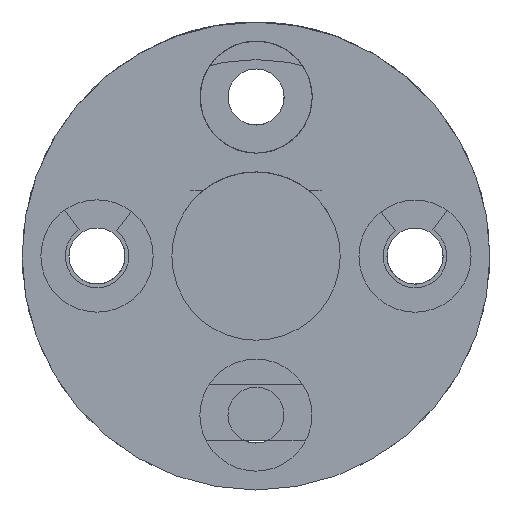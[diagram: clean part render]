
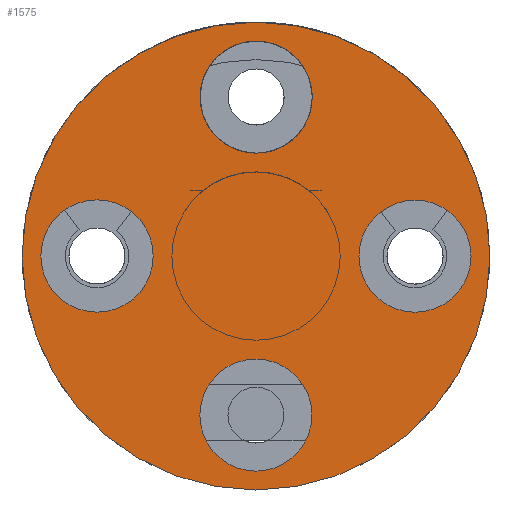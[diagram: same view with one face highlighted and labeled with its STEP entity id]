
A CAD part, front view. The second image highlights one B-rep face of the part: STEP entity #1575.
In plain terms, the highlighted planar face has unit normal (0, -1, 0).
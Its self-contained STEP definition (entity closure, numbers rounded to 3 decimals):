
#423 = AXIS2_PLACEMENT_3D ( 'NONE', #4349, #4348, #4351 ) ;
#537 = AXIS2_PLACEMENT_3D ( 'NONE', #2394, #2395, #2396 ) ;
#698 = EDGE_CURVE ( 'NONE', #5385, #5365, #6269, .T. ) ;
#742 = ORIENTED_EDGE ( 'NONE', *, *, #5184, .F. ) ;
#743 = ORIENTED_EDGE ( 'NONE', *, *, #698, .F. ) ;
#744 = ORIENTED_EDGE ( 'NONE', *, *, #5185, .F. ) ;
#745 = ORIENTED_EDGE ( 'NONE', *, *, #1629, .F. ) ;
#746 = ORIENTED_EDGE ( 'NONE', *, *, #5183, .F. ) ;
#747 = ORIENTED_EDGE ( 'NONE', *, *, #1630, .F. ) ;
#748 = ORIENTED_EDGE ( 'NONE', *, *, #5182, .F. ) ;
#749 = ORIENTED_EDGE ( 'NONE', *, *, #6615, .F. ) ;
#750 = ORIENTED_EDGE ( 'NONE', *, *, #5177, .F. ) ;
#751 = ORIENTED_EDGE ( 'NONE', *, *, #5159, .F. ) ;
#931 = EDGE_LOOP ( 'NONE', ( #742, #743 ) ) ;
#1018 = EDGE_LOOP ( 'NONE', ( #750, #751 ) ) ;
#1019 = EDGE_LOOP ( 'NONE', ( #748, #749 ) ) ;
#1020 = EDGE_LOOP ( 'NONE', ( #746, #747 ) ) ;
#1021 = EDGE_LOOP ( 'NONE', ( #744, #745 ) ) ;
#1575 = ADVANCED_FACE ( 'NONE', ( #4869, #4878, #4880, #4882, #4867 ), #3107, .F. ) ;
#1629 = EDGE_CURVE ( 'NONE', #2690, #2669, #6906, .T. ) ;
#1630 = EDGE_CURVE ( 'NONE', #2731, #2747, #6908, .T. ) ;
#2116 = AXIS2_PLACEMENT_3D ( 'NONE', #3297, #3298, #3299 ) ;
#2122 = AXIS2_PLACEMENT_3D ( 'NONE', #3300, #3301, #3302 ) ;
#2197 = AXIS2_PLACEMENT_3D ( 'NONE', #3898, #3901, #3902 ) ;
#2207 = AXIS2_PLACEMENT_3D ( 'NONE', #4015, #4016, #4017 ) ;
#2209 = AXIS2_PLACEMENT_3D ( 'NONE', #3970, #3996, #3997 ) ;
#2214 = AXIS2_PLACEMENT_3D ( 'NONE', #4004, #4010, #4011 ) ;
#2215 = AXIS2_PLACEMENT_3D ( 'NONE', #4007, #4013, #4014 ) ;
#2217 = AXIS2_PLACEMENT_3D ( 'NONE', #4012, #4019, #4020 ) ;
#2394 = CARTESIAN_POINT ( 'NONE',  ( 0., 0., -8.499 ) ) ;
#2395 = DIRECTION ( 'NONE',  ( 0., -1., 0. ) ) ;
#2396 = DIRECTION ( 'NONE',  ( 0., 0., -1. ) ) ;
#2669 = VERTEX_POINT ( 'NONE', #3520 ) ;
#2690 = VERTEX_POINT ( 'NONE', #3538 ) ;
#2713 = VERTEX_POINT ( 'NONE', #3561 ) ;
#2731 = VERTEX_POINT ( 'NONE', #3579 ) ;
#2747 = VERTEX_POINT ( 'NONE', #3595 ) ;
#3106 = CARTESIAN_POINT ( 'NONE',  ( 0., 0., 0. ) ) ;
#3107 = PLANE ( 'NONE',  #6147 ) ;
#3118 = DIRECTION ( 'NONE',  ( 0., 1., 0. ) ) ;
#3119 = DIRECTION ( 'NONE',  ( 0., 0., 1. ) ) ;
#3297 = CARTESIAN_POINT ( 'NONE',  ( 8.499, 0., 0. ) ) ;
#3298 = DIRECTION ( 'NONE',  ( 0., -1., 0. ) ) ;
#3299 = DIRECTION ( 'NONE',  ( 0., 0., -1. ) ) ;
#3300 = CARTESIAN_POINT ( 'NONE',  ( -8.499, 0., 0. ) ) ;
#3301 = DIRECTION ( 'NONE',  ( 0., -1., 0. ) ) ;
#3302 = DIRECTION ( 'NONE',  ( 0., 0., -1. ) ) ;
#3520 = CARTESIAN_POINT ( 'NONE',  ( 8.499, 0., -2.995 ) ) ;
#3538 = CARTESIAN_POINT ( 'NONE',  ( 8.499, 0., 2.995 ) ) ;
#3561 = CARTESIAN_POINT ( 'NONE',  ( 0., 0., 11.496 ) ) ;
#3579 = CARTESIAN_POINT ( 'NONE',  ( -8.499, 0., 3.001 ) ) ;
#3595 = CARTESIAN_POINT ( 'NONE',  ( -8.499, 0., -3.001 ) ) ;
#3898 = CARTESIAN_POINT ( 'NONE',  ( 0., 0., 0. ) ) ;
#3901 = DIRECTION ( 'NONE',  ( 0., 1., 0. ) ) ;
#3902 = DIRECTION ( 'NONE',  ( 0., 0., 1. ) ) ;
#3970 = CARTESIAN_POINT ( 'NONE',  ( 0., 0., 0. ) ) ;
#3996 = DIRECTION ( 'NONE',  ( 0., 1., 0. ) ) ;
#3997 = DIRECTION ( 'NONE',  ( 0., 0., 1. ) ) ;
#4004 = CARTESIAN_POINT ( 'NONE',  ( 0., 0., 8.499 ) ) ;
#4007 = CARTESIAN_POINT ( 'NONE',  ( -8.499, 0., 0. ) ) ;
#4010 = DIRECTION ( 'NONE',  ( 0., -1., 0. ) ) ;
#4011 = DIRECTION ( 'NONE',  ( 0., 0., -1. ) ) ;
#4012 = CARTESIAN_POINT ( 'NONE',  ( 8.499, 0., 0. ) ) ;
#4013 = DIRECTION ( 'NONE',  ( 0., -1., 0. ) ) ;
#4014 = DIRECTION ( 'NONE',  ( 0., 0., -1. ) ) ;
#4015 = CARTESIAN_POINT ( 'NONE',  ( 0., 0., -8.499 ) ) ;
#4016 = DIRECTION ( 'NONE',  ( 0., -1., 0. ) ) ;
#4017 = DIRECTION ( 'NONE',  ( 0., 0., -1. ) ) ;
#4019 = DIRECTION ( 'NONE',  ( 0., -1., 0. ) ) ;
#4020 = DIRECTION ( 'NONE',  ( 0., 0., -1. ) ) ;
#4302 = CARTESIAN_POINT ( 'NONE',  ( 0., 0., -12.505 ) ) ;
#4305 = CARTESIAN_POINT ( 'NONE',  ( 0., 0., 5.502 ) ) ;
#4316 = CARTESIAN_POINT ( 'NONE',  ( 0., 0., -11.495 ) ) ;
#4331 = CARTESIAN_POINT ( 'NONE',  ( 0., 0., 12.505 ) ) ;
#4334 = CARTESIAN_POINT ( 'NONE',  ( 0., 0., -5.504 ) ) ;
#4348 = DIRECTION ( 'NONE',  ( 0., -1., 0. ) ) ;
#4349 = CARTESIAN_POINT ( 'NONE',  ( 0., 0., 8.499 ) ) ;
#4351 = DIRECTION ( 'NONE',  ( 0., 0., -1. ) ) ;
#4724 = CIRCLE ( 'NONE', #2197, 12.505 ) ;
#4867 = FACE_OUTER_BOUND ( 'NONE', #1018, .T. ) ;
#4869 = FACE_BOUND ( 'NONE', #931, .T. ) ;
#4878 = FACE_BOUND ( 'NONE', #1021, .T. ) ;
#4880 = FACE_BOUND ( 'NONE', #1020, .T. ) ;
#4882 = FACE_BOUND ( 'NONE', #1019, .T. ) ;
#4936 = CIRCLE ( 'NONE', #2209, 12.505 ) ;
#4943 = CIRCLE ( 'NONE', #2214, 2.997 ) ;
#4944 = CIRCLE ( 'NONE', #2215, 3.001 ) ;
#4946 = CIRCLE ( 'NONE', #2207, 2.995 ) ;
#4948 = CIRCLE ( 'NONE', #2217, 2.995 ) ;
#5115 = CIRCLE ( 'NONE', #423, 2.997 ) ;
#5159 = EDGE_CURVE ( 'NONE', #5382, #5351, #4724, .T. ) ;
#5177 = EDGE_CURVE ( 'NONE', #5351, #5382, #4936, .T. ) ;
#5182 = EDGE_CURVE ( 'NONE', #5354, #2713, #4943, .T. ) ;
#5183 = EDGE_CURVE ( 'NONE', #2747, #2731, #4944, .T. ) ;
#5184 = EDGE_CURVE ( 'NONE', #5365, #5385, #4946, .T. ) ;
#5185 = EDGE_CURVE ( 'NONE', #2669, #2690, #4948, .T. ) ;
#5351 = VERTEX_POINT ( 'NONE', #4302 ) ;
#5354 = VERTEX_POINT ( 'NONE', #4305 ) ;
#5365 = VERTEX_POINT ( 'NONE', #4316 ) ;
#5382 = VERTEX_POINT ( 'NONE', #4331 ) ;
#5385 = VERTEX_POINT ( 'NONE', #4334 ) ;
#6147 = AXIS2_PLACEMENT_3D ( 'NONE', #3106, #3118, #3119 ) ;
#6269 = CIRCLE ( 'NONE', #537, 2.995 ) ;
#6615 = EDGE_CURVE ( 'NONE', #2713, #5354, #5115, .T. ) ;
#6906 = CIRCLE ( 'NONE', #2116, 2.995 ) ;
#6908 = CIRCLE ( 'NONE', #2122, 3.001 ) ;
